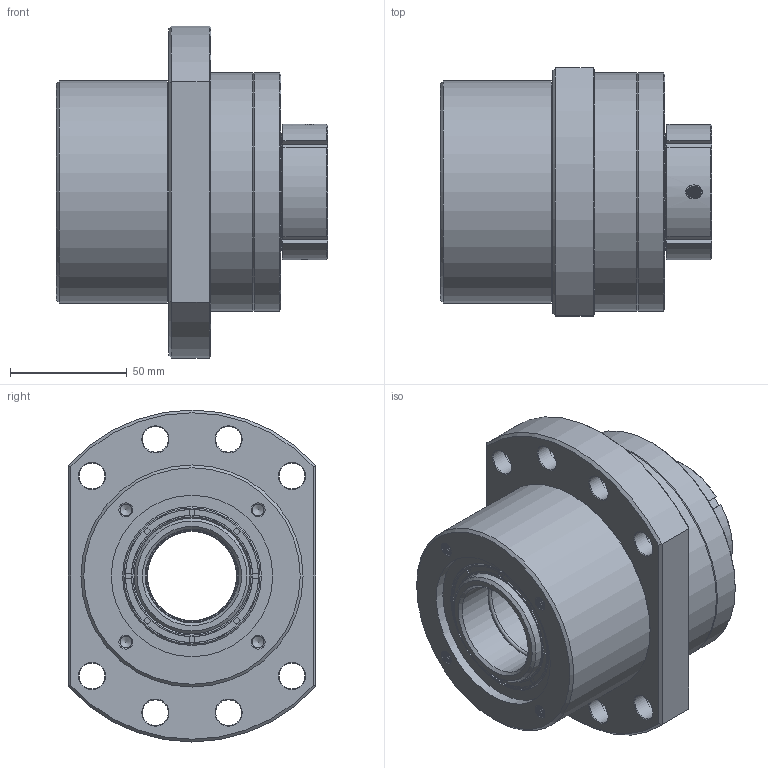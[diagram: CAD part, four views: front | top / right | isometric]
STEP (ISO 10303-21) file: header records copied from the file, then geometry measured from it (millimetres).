
FILE_DESCRIPTION(('STEP AP214'),'1');
FILE_NAME('Scene4.stp','2016-10-05T11:07:22',(' '),(' '),'Spatial InterOp 3D',' ',' ');
FILE_SCHEMA(('automotive_design'));
Length unit declared in the file: millimetre
Products named in the file (3): Assembly1; WBK40DFF; WBK40DFF_1
Assembly tree (2 placements, depth 2):
  Assembly1
    WBK40DFF
    WBK40DFF_1
Bounding box: 116 x 106 x 142 mm (x, y, z)
Volume: 617361.6 mm3; surface area: 146154.8 mm2
Topology: 2 solids, 33 shells, 1398 faces, 3799 edges, 2334 vertices
Faces by surface type: cone 566, plane 314, torus 216, sphere 176, cylinder 126
Full cylindrical faces by diameter (mm): 5 x10, 6.6 x8, 8 x8, 9 x8, 11 x8, 13 x8, 14 x8, 17.5 x8, 40 x6, 41.2 x1, 49.4 x8, 50 x1, 51.8 x4, 57 x12, 59.4 x3, 63.2 x3, 69 x2, 70.8 x1, 72 x6, 93.8 x1, 95 x1, 102 x2
Entity records: 68896 total; most frequent: CARTESIAN_POINT 16112, DIRECTION 5588, ORIENTED_EDGE 5440, STYLED_ITEM 4030, PRESENTATION_STYLE_ASSIGNMENT 4030, COLOUR_RGB 4030, EDGE_CURVE 2720, CURVE_STYLE 2720
